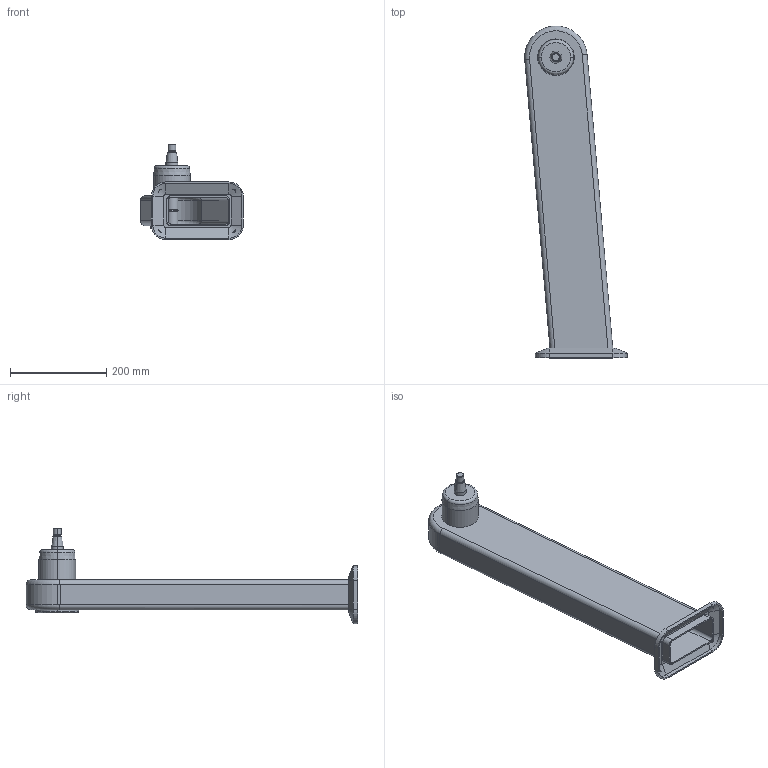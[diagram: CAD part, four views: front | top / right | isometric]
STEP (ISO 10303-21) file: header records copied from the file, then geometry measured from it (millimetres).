
FILE_DESCRIPTION (( 'STEP AP214' ), '1' );
FILE_NAME ('WP710_H625_-05.STEP', '2014-06-27T07:01:10', ( '' ), ( '' ), 'SwSTEP 2.0', 'SolidWorks 2014', '' );
FILE_SCHEMA (( 'AUTOMOTIVE_DESIGN' ));
Length unit declared in the file: millimetre
Products named in the file (1): WP710_H625_-05
Bounding box: 213.43 x 689.94 x 198 mm (x, y, z)
Volume: 1158509.9 mm3; surface area: 557501.9 mm2
Topology: 1 solids, 1 shells, 112 faces, 250 edges, 152 vertices
Faces by surface type: cylinder 44, plane 40, cone 20, torus 8
Entity records: 3211 total; most frequent: CARTESIAN_POINT 668, DIRECTION 552, ORIENTED_EDGE 500, EDGE_CURVE 250, AXIS2_PLACEMENT_3D 211, VERTEX_POINT 152, VECTOR 130, LINE 130
